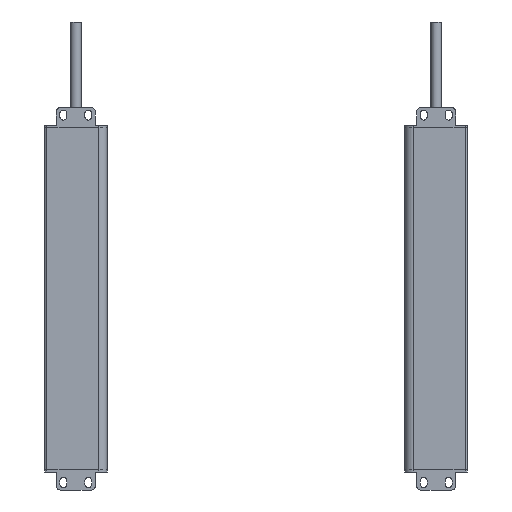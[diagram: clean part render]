
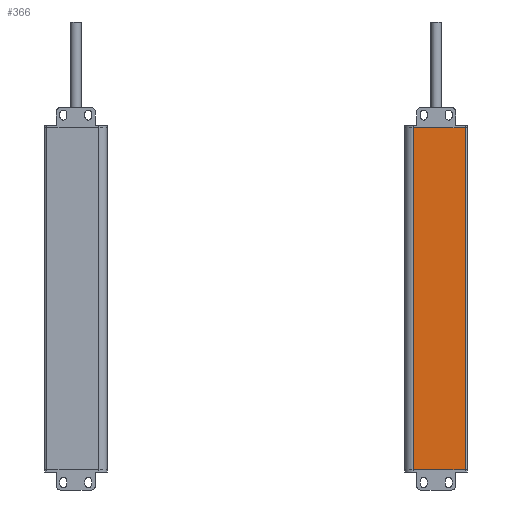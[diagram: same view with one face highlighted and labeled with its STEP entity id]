
A CAD part, front view. The second image highlights one B-rep face of the part: STEP entity #366.
In plain terms, the highlighted planar face has unit normal (0, -1, 0).
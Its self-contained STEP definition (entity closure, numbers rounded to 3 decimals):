
#123=PLANE('',#5869);
#366=ADVANCED_FACE('',(#797),#123,.T.);
#797=FACE_OUTER_BOUND('',#1073,.T.);
#1073=EDGE_LOOP('',(#1780,#1781,#1782,#1783));
#1780=ORIENTED_EDGE('',*,*,#3977,.T.);
#1781=ORIENTED_EDGE('',*,*,#3978,.F.);
#1782=ORIENTED_EDGE('',*,*,#3979,.F.);
#1783=ORIENTED_EDGE('',*,*,#3903,.T.);
#3351=VERTEX_POINT('',#8106);
#3352=VERTEX_POINT('',#8108);
#3421=VERTEX_POINT('',#8253);
#3422=VERTEX_POINT('',#8257);
#3903=EDGE_CURVE('',#3352,#3351,#4726,.T.);
#3977=EDGE_CURVE('',#3351,#3421,#4771,.T.);
#3978=EDGE_CURVE('',#3422,#3421,#4772,.T.);
#3979=EDGE_CURVE('',#3352,#3422,#4773,.T.);
#4726=LINE('',#8107,#5280);
#4771=LINE('',#8254,#5325);
#4772=LINE('',#8256,#5326);
#4773=LINE('',#8258,#5327);
#5280=VECTOR('',#6413,1.);
#5325=VECTOR('',#6522,1.);
#5326=VECTOR('',#6525,1.);
#5327=VECTOR('',#6526,1.);
#5869=AXIS2_PLACEMENT_3D('',#8259,#6527,#6528);
#6413=DIRECTION('',(1.,0.,0.));
#6522=DIRECTION('',(0.,0.,1.));
#6525=DIRECTION('',(1.,0.,0.));
#6526=DIRECTION('',(0.,0.,1.));
#6527=DIRECTION('',(0.,-1.,0.));
#6528=DIRECTION('',(-1.,0.,0.));
#8106=CARTESIAN_POINT('',(3.35,-1.3,-100.));
#8107=CARTESIAN_POINT('',(-21.15,-1.3,-100.));
#8108=CARTESIAN_POINT('',(-21.15,-1.3,-100.));
#8253=CARTESIAN_POINT('',(3.35,-1.3,62.));
#8254=CARTESIAN_POINT('',(3.35,-1.3,-100.));
#8256=CARTESIAN_POINT('',(-4122.897,-1.3,62.));
#8257=CARTESIAN_POINT('',(-21.15,-1.3,62.));
#8258=CARTESIAN_POINT('',(-21.15,-1.3,-100.));
#8259=CARTESIAN_POINT('',(-21.15,-1.3,-100.));
